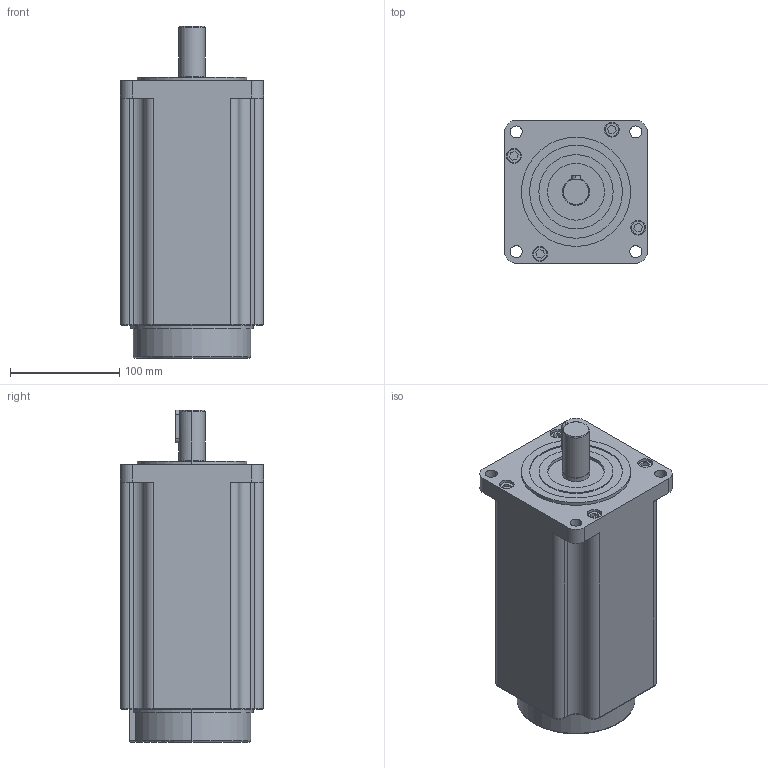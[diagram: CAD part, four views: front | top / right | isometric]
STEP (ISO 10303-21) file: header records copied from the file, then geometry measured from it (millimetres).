
FILE_DESCRIPTION (( 'STEP AP214' ), '1' );
FILE_NAME ('FHB31325祭輛萇儂誘欶.STEP', '2019-08-23T04:20:29', ( 'hzmg' ), ( '' ), 'SwSTEP 2.0', 'SolidWorks 2016', '' );
FILE_SCHEMA (( 'AUTOMOTIVE_DESIGN' ));
Length unit declared in the file: millimetre
Products named in the file (1): FHB31325祭輛萇儂誘欶
Bounding box: 131 x 131 x 304 mm (x, y, z)
Volume: 3730805.5 mm3; surface area: 160674.5 mm2
Topology: 1 solids, 1 shells, 163 faces, 392 edges, 250 vertices
Faces by surface type: cylinder 77, plane 68, torus 15, cone 3
Entity records: 4869 total; most frequent: CARTESIAN_POINT 888, DIRECTION 875, ORIENTED_EDGE 784, EDGE_CURVE 392, AXIS2_PLACEMENT_3D 329, VERTEX_POINT 250, VECTOR 217, LINE 217
